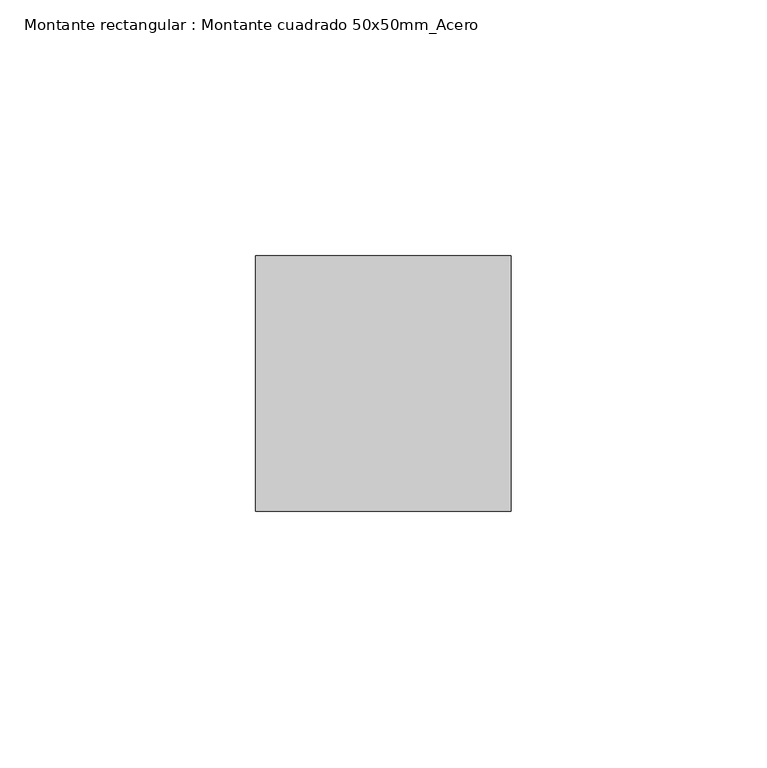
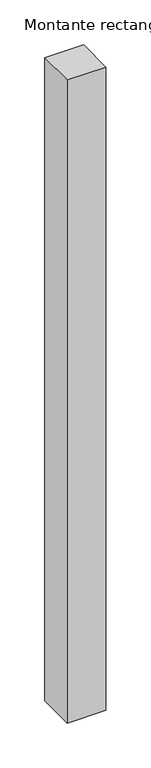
"""IFC4 building model written with IfcOpenShell, lengths in millimetres: member geometry, Montante rectangular : Montante cuadrado 50x50mm_Acero."""

import ifcopenshell
import ifcopenshell.guid

model = None  # the IFC model being written
_history = None  # IfcOwnerHistory: only IFC2X3 demands one
_inside = {}  # id of a spatial element -> (the spatial element, [elements in it])
_under = {}  # id of a project, library or spatial element -> (it, [spatial elements below it])
_declared = {}  # id of a project -> (the project, [libraries it declares])
_typed = {}  # id of a type object -> (the type object, [elements of that type])
_made_of = {}  # id of a material, layer set ... -> (it, [elements and type objects made of it])


def new_model(schema):
    """Start an empty IFC model of exactly this schema.

    Asked for "IFC4X3", IfcOpenShell would pick the latest addendum, in which some entities
    have other attributes; the version numbers below select the first issue.
    IFC2X3 requires an IfcOwnerHistory on every rooted entity: one is made here for all.
    """
    global model, _history
    if schema == "IFC4X3":
        model = ifcopenshell.file(schema_version=(4, 3, 0, 0))
    else:
        model = ifcopenshell.file(schema=schema)
    _inside.clear()
    _under.clear()
    _declared.clear()
    _typed.clear()
    _made_of.clear()
    _history = None
    if model.schema == "IFC2X3":
        org = make("IfcOrganization", Name="unknown")
        user = make(
            "IfcPersonAndOrganization",
            ThePerson=make("IfcPerson", FamilyName="unknown"),
            TheOrganization=org,
        )
        app = make(
            "IfcApplication",
            ApplicationDeveloper=org,
            Version="unknown",
            ApplicationFullName="unknown",
            ApplicationIdentifier="unknown",
        )
        _history = make(
            "IfcOwnerHistory",
            OwningUser=user,
            OwningApplication=app,
            ChangeAction="ADDED",
            CreationDate=0,
        )
    return model


def make(cls, **values):
    """One entity of the class cls with the attributes given. An attribute that is None is left unset."""
    return model.create_entity(
        cls, **{name: value for name, value in values.items() if value is not None}
    )


def rooted(cls, **values):
    """An entity with a GlobalId (a new one), such as an element, a storey or a relation."""
    return make(cls, GlobalId=ifcopenshell.guid.new(), OwnerHistory=_history, **values)


def si_unit(unit_type, name, prefix=None):
    """IfcSIUnit, for example si_unit("LENGTHUNIT", "METRE", prefix="MILLI")."""
    return make("IfcSIUnit", UnitType=unit_type, Prefix=prefix, Name=name)


def assignment(units):
    """IfcUnitAssignment: the units of a project."""
    return None if units is None else make("IfcUnitAssignment", Units=units)


def point(xyz):
    """IfcCartesianPoint."""
    return None if xyz is None else make("IfcCartesianPoint", Coordinates=xyz)


def direction(xyz):
    """IfcDirection."""
    return None if xyz is None else make("IfcDirection", DirectionRatios=xyz)


def frame(location, z_axis=None, x_axis=None):
    """IfcAxis2Placement3D, a coordinate frame: its origin and axes. An axis left out is left unset."""
    return make(
        "IfcAxis2Placement3D",
        Location=point(location),
        Axis=direction(z_axis),
        RefDirection=direction(x_axis),
    )


def origin():
    """The frame at (0, 0, 0) with its axes left unset."""
    return frame((0.0, 0.0, 0.0))


def place(relative_to, where):
    """IfcLocalPlacement: puts the frame where relative to a parent placement (None: the world)."""
    return make(
        "IfcLocalPlacement", PlacementRelTo=relative_to, RelativePlacement=where
    )


def context(
    kind, dimensions, precision=None, world=None, true_north=None, identifier=None
):
    """IfcGeometricRepresentationContext, for example the 3D "Model" context."""
    return make(
        "IfcGeometricRepresentationContext",
        ContextIdentifier=identifier,
        ContextType=kind,
        CoordinateSpaceDimension=dimensions,
        Precision=precision,
        WorldCoordinateSystem=world,
        TrueNorth=true_north,
    )


def project(units=None, contexts=None):
    """IfcProject with its units and contexts."""
    return rooted(
        "IfcProject",
        Name="project",
        RepresentationContexts=contexts,
        UnitsInContext=assignment(units),
    )


def spatial(cls, under=None, at=None, **own):
    """A site, building, storey or space (cls), placed at a placement, below another one or the project."""
    s = rooted(cls, ObjectPlacement=at, **own)
    if under is not None:
        _under.setdefault(under.id(), (under, []))[1].append(s)
    return s


def polyline(points):
    """IfcPolyline through the points."""
    return make("IfcPolyline", Points=[point(p) for p in points])


def outline(outer, holes=None, kind="AREA"):
    """IfcArbitraryClosedProfileDef: a profile drawn as a closed curve; with holes, ...WithVoids."""
    if holes is None:
        return make("IfcArbitraryClosedProfileDef", ProfileType=kind, OuterCurve=outer)
    return make(
        "IfcArbitraryProfileDefWithVoids",
        ProfileType=kind,
        OuterCurve=outer,
        InnerCurves=holes,
    )


def extrude(swept, where, along, depth):
    """IfcExtrudedAreaSolid: the profile swept, set in the frame where, extruded along a direction by depth."""
    return make(
        "IfcExtrudedAreaSolid",
        SweptArea=swept,
        Position=where,
        ExtrudedDirection=direction(along),
        Depth=depth,
    )


def shape(context_of_items, identifier, shape_type, items):
    """IfcShapeRepresentation: the items that make up one representation, for example the "Body"."""
    return make(
        "IfcShapeRepresentation",
        ContextOfItems=context_of_items,
        RepresentationIdentifier=identifier,
        RepresentationType=shape_type,
        Items=items,
    )


def source(mapping_origin, context_of_items, identifier, shape_type, items):
    """IfcRepresentationMap: a shape defined once, which mapped items show again and again."""
    return make(
        "IfcRepresentationMap",
        MappingOrigin=mapping_origin,
        MappedRepresentation=shape(context_of_items, identifier, shape_type, items),
    )


def transform(
    local_origin,
    x_axis=None,
    y_axis=None,
    z_axis=None,
    scale=None,
    scale2=None,
    scale3=None,
    uniform=True,
):
    """IfcCartesianTransformationOperator3D, or its non-uniform kind. x_axis, y_axis, z_axis: its Axis1, 2, 3."""
    if uniform:
        return make(
            "IfcCartesianTransformationOperator3D",
            Axis1=direction(x_axis),
            Axis2=direction(y_axis),
            LocalOrigin=point(local_origin),
            Scale=scale,
            Axis3=direction(z_axis),
        )
    return make(
        "IfcCartesianTransformationOperator3DnonUniform",
        Axis1=direction(x_axis),
        Axis2=direction(y_axis),
        LocalOrigin=point(local_origin),
        Scale=scale,
        Axis3=direction(z_axis),
        Scale2=scale2,
        Scale3=scale3,
    )


def mapped(mapping_source, mapping_target):
    """IfcMappedItem: shows the shape of a source again, moved by a transform."""
    return make(
        "IfcMappedItem", MappingSource=mapping_source, MappingTarget=mapping_target
    )


def made_of(thing, what):
    """Note that an element or type object is made of a material, layer set ...; save() writes the relation."""
    if what is not None:
        _made_of.setdefault(what.id(), (what, []))[1].append(thing)
    return thing


def element(
    cls,
    number,
    at=None,
    inside=None,
    cuts=None,
    type_object=None,
    material=None,
    context=None,
    identifier="Body",
    shape_type=None,
    held_by="IfcProductDefinitionShape",
    body=None,
    shapes=None,
    **own,
):
    """One element of the class cls, such as IfcWall. Its Tag is "e" and its number.

    at: its placement. inside: the storey or other place that contains it. cuts: it is an
    opening in that element (IfcRelVoidsElement). A single representation is given by context,
    identifier, shape_type and body (its items); several are given by shapes. held_by: the class
    of the entity that holds the representations. save() writes the other relations.
    """
    e = rooted(cls, Tag="e%d" % number, ObjectPlacement=at, **own)
    if body is not None:
        shapes = [shape(context, identifier, shape_type, body)]
    if shapes is not None:
        e.Representation = make(held_by, Representations=shapes)
    if inside is not None:
        _inside.setdefault(inside.id(), (inside, []))[1].append(e)
    if cuts is not None:
        rooted(
            "IfcRelVoidsElement", RelatingBuildingElement=cuts, RelatedOpeningElement=e
        )
    if type_object is not None:
        _typed.setdefault(type_object.id(), (type_object, []))[1].append(e)
    return made_of(e, material)


def aggregate(whole, parts):
    """IfcRelAggregates: a whole, such as a stair, and the parts it consists of."""
    return rooted("IfcRelAggregates", RelatingObject=whole, RelatedObjects=parts)


def save(model, path):
    """Write the relations noted so far, then the file.

    IfcRelAggregates (storeys below a building ...), IfcRelContainedInSpatialStructure (elements
    in a storey), IfcRelDefinesByType, IfcRelAssociatesMaterial and IfcRelDeclares: one each for
    every whole, place, type object, material and project.
    """
    for whole, parts in _under.values():
        aggregate(whole, parts)
    for where, things in _inside.values():
        rooted(
            "IfcRelContainedInSpatialStructure",
            RelatedElements=things,
            RelatingStructure=where,
        )
    for kind, things in _typed.values():
        rooted("IfcRelDefinesByType", RelatedObjects=things, RelatingType=kind)
    for what, things in _made_of.values():
        rooted("IfcRelAssociatesMaterial", RelatedObjects=things, RelatingMaterial=what)
    for by, libraries in _declared.values():
        rooted("IfcRelDeclares", RelatingContext=by, RelatedDefinitions=libraries)
    model.write(path)


def montante_rectangular_montante_cuadrado_50x50mm_acero_85ed2a2e(model_context):
    return source(origin(), model_context, "Body", "SweptSolid", [
        extrude(outline(polyline([(0.0, 0.0), (0.0, -50.0), (-50.0, -50.0), (-50.0, 0.0), (0.0, 0.0)])), frame((0.0, 0.0, -876.4999994), z_axis=(0.0, 0.0, 1.0), x_axis=(1.0, 0.0, 0.0)), (0.0, 0.0, 1.0), 876.4999994),
    ])


if __name__ == "__main__":
    model = new_model("IFC4")
    model_context = context("Model", 3, world=origin())
    ifc_project = project(units=[si_unit("LENGTHUNIT", "METRE", prefix="MILLI")], contexts=[model_context])
    site = spatial("IfcSite", under=ifc_project)
    building = spatial("IfcBuilding", under=site)
    placement = place(None, origin())
    montante_rectangular_montante_cuadrado_50x50mm_acero_shape = montante_rectangular_montante_cuadrado_50x50mm_acero_85ed2a2e(model_context)
    element("IfcMember", 1, ObjectType="Montante rectangular : Montante cuadrado 50x50mm_Acero", at=placement, inside=building, context=model_context, shape_type="MappedRepresentation", body=[
        mapped(montante_rectangular_montante_cuadrado_50x50mm_acero_shape, transform((0.0, 0.0, 0.0), x_axis=(1.0, 0.0, 0.0), y_axis=(0.0, 1.0, 0.0), z_axis=(0.0, 0.0, 1.0))),
    ])
    save(model, "model.ifc")
